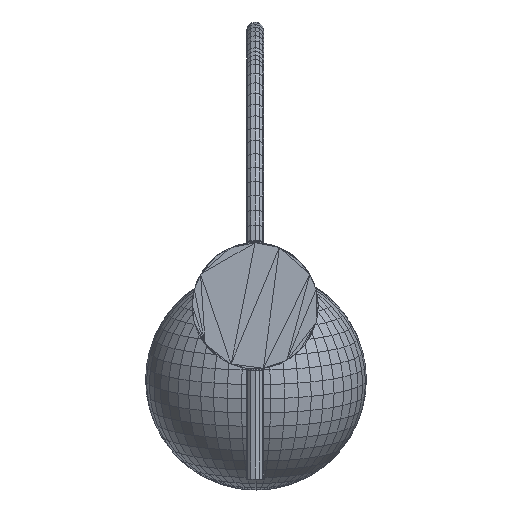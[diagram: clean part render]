
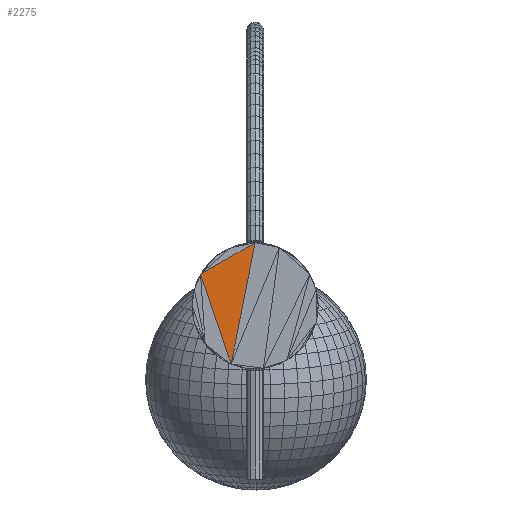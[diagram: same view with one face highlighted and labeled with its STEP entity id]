
A CAD part, front view. The second image highlights one B-rep face of the part: STEP entity #2275.
In plain terms, the highlighted planar face has unit normal (0, -1, 0).
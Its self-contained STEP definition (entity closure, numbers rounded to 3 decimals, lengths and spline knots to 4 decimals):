
#2275=ADVANCED_FACE('',(#6699),#54447,.T.);
#6699=FACE_OUTER_BOUND('',#11123,.T.);
#11123=EDGE_LOOP('',(#21617,#21618,#21619));
#21617=ORIENTED_EDGE('',*,*,#34704,.F.);
#21618=ORIENTED_EDGE('',*,*,#34703,.T.);
#21619=ORIENTED_EDGE('',*,*,#34782,.T.);
#34703=EDGE_CURVE('',#49896,#49923,#43343,.T.);
#34704=EDGE_CURVE('',#49896,#49930,#43344,.T.);
#34782=EDGE_CURVE('',#49923,#49930,#43422,.T.);
#43343=B_SPLINE_CURVE_WITH_KNOTS('',1,(#78261,#78262),.UNSPECIFIED.,.F.,
 .F.,(2,2),(0.,1.),.UNSPECIFIED.);
#43344=B_SPLINE_CURVE_WITH_KNOTS('',1,(#78263,#78264),.UNSPECIFIED.,.F.,
 .F.,(2,2),(0.,1.),.UNSPECIFIED.);
#43422=B_SPLINE_CURVE_WITH_KNOTS('',1,(#78419,#78420),.UNSPECIFIED.,.F.,
 .F.,(2,2),(0.,1.),.UNSPECIFIED.);
#49896=VERTEX_POINT('',#77916);
#49923=VERTEX_POINT('',#77943);
#49930=VERTEX_POINT('',#77950);
#54447=PLANE('',#58292);
#58292=AXIS2_PLACEMENT_3D('',#77616,#62121,$);
#62121=DIRECTION('',(0.,-1.,0.));
#77616=CARTESIAN_POINT('',(-3.4641,-19.6496,90.4011));
#77916=CARTESIAN_POINT('',(-1.5307,-19.6496,84.7056));
#77943=CARTESIAN_POINT('',(0.,-19.6496,92.4011));
#77950=CARTESIAN_POINT('',(-3.4641,-19.6496,90.4011));
#78261=CARTESIAN_POINT('',(-1.5307,-19.6496,84.7056));
#78262=CARTESIAN_POINT('',(0.,-19.6496,92.4011));
#78263=CARTESIAN_POINT('',(-1.5307,-19.6496,84.7056));
#78264=CARTESIAN_POINT('',(-3.4641,-19.6496,90.4011));
#78419=CARTESIAN_POINT('',(0.,-19.6496,92.4011));
#78420=CARTESIAN_POINT('',(-3.4641,-19.6496,90.4011));
